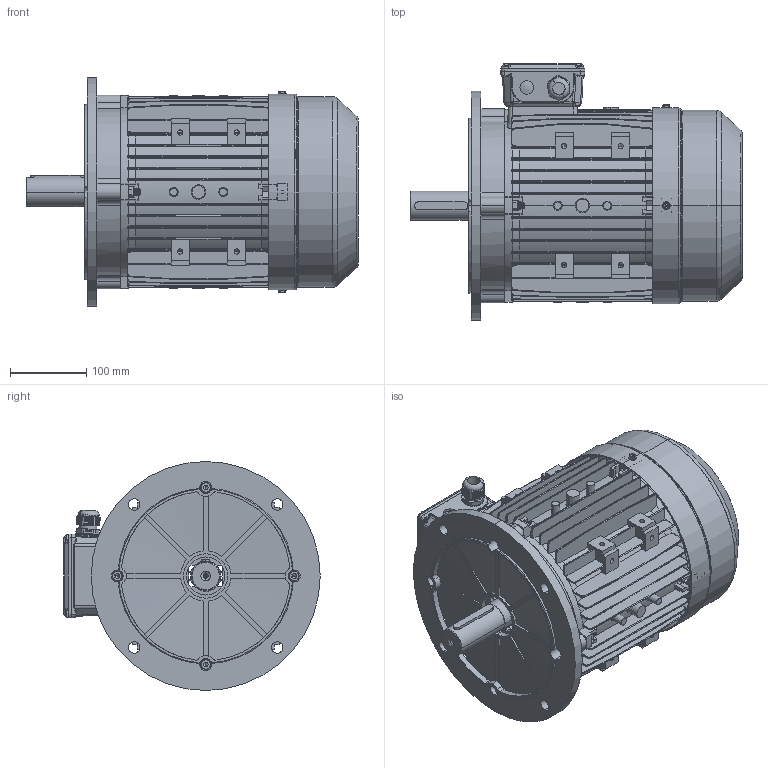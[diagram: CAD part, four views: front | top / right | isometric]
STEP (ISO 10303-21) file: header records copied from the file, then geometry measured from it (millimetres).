
FILE_DESCRIPTION (( 'STEP AP203' ), '1' );
FILE_NAME ('IE1 132S assembly B5.STEP', '2017-08-07T02:25:31', ( 'user' ), ( 'china' ), 'SwSTEP 2.0', 'SolidWorks 2016', '' );
FILE_SCHEMA (( 'CONFIG_CONTROL_DESIGN' ));
Length unit declared in the file: millimetre
Products named in the file (15): GB-T 29.2-1988 M4_10; IE1 132S assembly B5; GB-T 41-2000 M8; M63-132諉盄碟釱(陔)_CIRO112-132; M132-Shaft drive end_DNF; M132瑞欶_117; M132傷裔B5; GB-T 29.2-1988 M5鞠褒坋趼湍菜_10; M63-132諉盄碟裔(陔)_CIRO112-132; M25 cable gland; M132傷裔B3_NonDrive; M63-132諉盄碟(陔)_112-132 M25; MS132 綴裔瑞欶郪磁; GB-T 70.1-2000 M8_40; M132儂褲_S
Assembly tree (25 placements, depth 3):
  IE1 132S assembly B5
    M132儂褲_S
    M132-Shaft drive end_DNF
    M63-132諉盄碟(陔)_112-132 M25
      M63-132諉盄碟釱(陔)_CIRO112-132
      M63-132諉盄碟裔(陔)_CIRO112-132
      GB-T 29.2-1988 M4_10  x4
      M25 cable gland
    MS132 綴裔瑞欶郪磁
      M132傷裔B3_NonDrive
      M132瑞欶_117
      GB-T 29.2-1988 M5鞠褒坋趼湍菜_10  x3
    GB-T 41-2000 M8  x4
    GB-T 70.1-2000 M8_40  x4
    M132傷裔B5
Bounding box: 435 x 336 x 300 mm (x, y, z)
Volume: 2674183.9 mm3; surface area: 1342304.2 mm2
Topology: 24 solids, 24 shells, 5081 faces, 13301 edges, 8211 vertices
Faces by surface type: plane 1964, cylinder 1323, cone 910, bspline 674, torus 138, sphere 72
Entity records: 166232 total; most frequent: CARTESIAN_POINT 67540, ORIENTED_EDGE 21606, DIRECTION 18238, EDGE_CURVE 10803, VERTEX_POINT 6791, AXIS2_PLACEMENT_3D 6230, LINE 5778, VECTOR 5778
